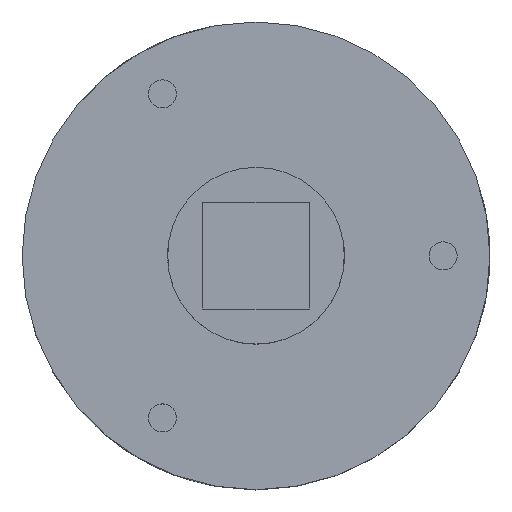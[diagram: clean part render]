
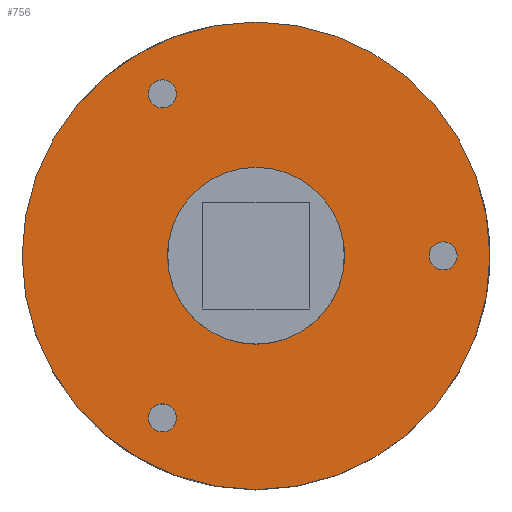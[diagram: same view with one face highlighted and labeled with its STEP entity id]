
A CAD part, top view. The second image highlights one B-rep face of the part: STEP entity #756.
In plain terms, the highlighted planar face has unit normal (0, 0, 1).
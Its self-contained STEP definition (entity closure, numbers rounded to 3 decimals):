
#31 = CYLINDRICAL_SURFACE('',#32,45.);
#32 = AXIS2_PLACEMENT_3D('',#33,#34,#35);
#33 = CARTESIAN_POINT('',(0.,0.,-13.));
#34 = DIRECTION('',(-0.,-0.,-1.));
#35 = DIRECTION('',(1.,0.,0.));
#171 = VERTEX_POINT('',#172);
#172 = CARTESIAN_POINT('',(45.,0.,13.));
#193 = EDGE_CURVE('',#171,#171,#194,.T.);
#194 = SURFACE_CURVE('',#195,(#200,#207),.PCURVE_S1.);
#195 = CIRCLE('',#196,45.);
#196 = AXIS2_PLACEMENT_3D('',#197,#198,#199);
#197 = CARTESIAN_POINT('',(0.,0.,13.));
#198 = DIRECTION('',(0.,0.,1.));
#199 = DIRECTION('',(1.,0.,0.));
#200 = PCURVE('',#31,#201);
#201 = DEFINITIONAL_REPRESENTATION('',(#202),#206);
#202 = LINE('',#203,#204);
#203 = CARTESIAN_POINT('',(-0.,-26.));
#204 = VECTOR('',#205,1.);
#205 = DIRECTION('',(-1.,0.));
#206 = ( GEOMETRIC_REPRESENTATION_CONTEXT(2) 
PARAMETRIC_REPRESENTATION_CONTEXT() REPRESENTATION_CONTEXT('2D SPACE',''
  ) );
#207 = PCURVE('',#208,#213);
#208 = PLANE('',#209);
#209 = AXIS2_PLACEMENT_3D('',#210,#211,#212);
#210 = CARTESIAN_POINT('',(0.,0.,13.));
#211 = DIRECTION('',(0.,0.,1.));
#212 = DIRECTION('',(1.,0.,-0.));
#213 = DEFINITIONAL_REPRESENTATION('',(#214),#218);
#214 = CIRCLE('',#215,45.);
#215 = AXIS2_PLACEMENT_2D('',#216,#217);
#216 = CARTESIAN_POINT('',(0.,0.));
#217 = DIRECTION('',(1.,0.));
#218 = ( GEOMETRIC_REPRESENTATION_CONTEXT(2) 
PARAMETRIC_REPRESENTATION_CONTEXT() REPRESENTATION_CONTEXT('2D SPACE',''
  ) );
#745 = CYLINDRICAL_SURFACE('',#746,2.7);
#746 = AXIS2_PLACEMENT_3D('',#747,#748,#749);
#747 = CARTESIAN_POINT('',(36.,0.,0.));
#748 = DIRECTION('',(0.,-0.,-1.));
#749 = DIRECTION('',(1.,0.,0.));
#756 = ADVANCED_FACE('',(#757,#760,#795,#826,#856),#208,.T.);
#757 = FACE_BOUND('',#758,.T.);
#758 = EDGE_LOOP('',(#759));
#759 = ORIENTED_EDGE('',*,*,#193,.T.);
#760 = FACE_BOUND('',#761,.T.);
#761 = EDGE_LOOP('',(#762));
#762 = ORIENTED_EDGE('',*,*,#763,.T.);
#763 = EDGE_CURVE('',#764,#764,#766,.T.);
#764 = VERTEX_POINT('',#765);
#765 = CARTESIAN_POINT('',(-19.35,-33.515,13.));
#766 = SURFACE_CURVE('',#767,(#772,#783),.PCURVE_S1.);
#767 = CIRCLE('',#768,2.7);
#768 = AXIS2_PLACEMENT_3D('',#769,#770,#771);
#769 = CARTESIAN_POINT('',(-18.,-31.177,13.));
#770 = DIRECTION('',(0.,0.,-1.));
#771 = DIRECTION('',(-0.5,-0.866,-0.));
#772 = PCURVE('',#208,#773);
#773 = DEFINITIONAL_REPRESENTATION('',(#774),#782);
#774 = ( BOUNDED_CURVE() B_SPLINE_CURVE(2,(#775,#776,#777,#778,#779,#780
,#781),.UNSPECIFIED.,.T.,.F.) B_SPLINE_CURVE_WITH_KNOTS((1,2,2,2,2,1),(
    -2.094,0.,2.094,4.189,6.283,
8.378),.UNSPECIFIED.) CURVE() GEOMETRIC_REPRESENTATION_ITEM() 
RATIONAL_B_SPLINE_CURVE((1.,0.5,1.,0.5,1.,0.5,1.)) REPRESENTATION_ITEM(
  '') );
#775 = CARTESIAN_POINT('',(-19.35,-33.515));
#776 = CARTESIAN_POINT('',(-23.4,-31.177));
#777 = CARTESIAN_POINT('',(-19.35,-28.839));
#778 = CARTESIAN_POINT('',(-15.3,-26.5));
#779 = CARTESIAN_POINT('',(-15.3,-31.177));
#780 = CARTESIAN_POINT('',(-15.3,-35.853));
#781 = CARTESIAN_POINT('',(-19.35,-33.515));
#782 = ( GEOMETRIC_REPRESENTATION_CONTEXT(2) 
PARAMETRIC_REPRESENTATION_CONTEXT() REPRESENTATION_CONTEXT('2D SPACE',''
  ) );
#783 = PCURVE('',#784,#789);
#784 = CYLINDRICAL_SURFACE('',#785,2.7);
#785 = AXIS2_PLACEMENT_3D('',#786,#787,#788);
#786 = CARTESIAN_POINT('',(-18.,-31.177,0.));
#787 = DIRECTION('',(0.,0.,-1.));
#788 = DIRECTION('',(-0.5,-0.866,0.));
#789 = DEFINITIONAL_REPRESENTATION('',(#790),#794);
#790 = LINE('',#791,#792);
#791 = CARTESIAN_POINT('',(-6.283,-13.));
#792 = VECTOR('',#793,1.);
#793 = DIRECTION('',(1.,-0.));
#794 = ( GEOMETRIC_REPRESENTATION_CONTEXT(2) 
PARAMETRIC_REPRESENTATION_CONTEXT() REPRESENTATION_CONTEXT('2D SPACE',''
  ) );
#795 = FACE_BOUND('',#796,.T.);
#796 = EDGE_LOOP('',(#797));
#797 = ORIENTED_EDGE('',*,*,#798,.F.);
#798 = EDGE_CURVE('',#799,#799,#801,.T.);
#799 = VERTEX_POINT('',#800);
#800 = CARTESIAN_POINT('',(17.,0.,13.));
#801 = SURFACE_CURVE('',#802,(#807,#814),.PCURVE_S1.);
#802 = CIRCLE('',#803,17.);
#803 = AXIS2_PLACEMENT_3D('',#804,#805,#806);
#804 = CARTESIAN_POINT('',(0.,0.,13.));
#805 = DIRECTION('',(0.,0.,1.));
#806 = DIRECTION('',(1.,0.,0.));
#807 = PCURVE('',#208,#808);
#808 = DEFINITIONAL_REPRESENTATION('',(#809),#813);
#809 = CIRCLE('',#810,17.);
#810 = AXIS2_PLACEMENT_2D('',#811,#812);
#811 = CARTESIAN_POINT('',(0.,0.));
#812 = DIRECTION('',(1.,0.));
#813 = ( GEOMETRIC_REPRESENTATION_CONTEXT(2) 
PARAMETRIC_REPRESENTATION_CONTEXT() REPRESENTATION_CONTEXT('2D SPACE',''
  ) );
#814 = PCURVE('',#815,#820);
#815 = CYLINDRICAL_SURFACE('',#816,17.);
#816 = AXIS2_PLACEMENT_3D('',#817,#818,#819);
#817 = CARTESIAN_POINT('',(0.,0.,13.));
#818 = DIRECTION('',(-0.,-0.,-1.));
#819 = DIRECTION('',(1.,0.,0.));
#820 = DEFINITIONAL_REPRESENTATION('',(#821),#825);
#821 = LINE('',#822,#823);
#822 = CARTESIAN_POINT('',(-0.,0.));
#823 = VECTOR('',#824,1.);
#824 = DIRECTION('',(-1.,0.));
#825 = ( GEOMETRIC_REPRESENTATION_CONTEXT(2) 
PARAMETRIC_REPRESENTATION_CONTEXT() REPRESENTATION_CONTEXT('2D SPACE',''
  ) );
#826 = FACE_BOUND('',#827,.T.);
#827 = EDGE_LOOP('',(#828));
#828 = ORIENTED_EDGE('',*,*,#829,.T.);
#829 = EDGE_CURVE('',#830,#830,#832,.T.);
#830 = VERTEX_POINT('',#831);
#831 = CARTESIAN_POINT('',(38.7,0.,13.));
#832 = SURFACE_CURVE('',#833,(#838,#849),.PCURVE_S1.);
#833 = CIRCLE('',#834,2.7);
#834 = AXIS2_PLACEMENT_3D('',#835,#836,#837);
#835 = CARTESIAN_POINT('',(36.,0.,13.));
#836 = DIRECTION('',(0.,0.,-1.));
#837 = DIRECTION('',(1.,0.,0.));
#838 = PCURVE('',#208,#839);
#839 = DEFINITIONAL_REPRESENTATION('',(#840),#848);
#840 = ( BOUNDED_CURVE() B_SPLINE_CURVE(2,(#841,#842,#843,#844,#845,#846
,#847),.UNSPECIFIED.,.T.,.F.) B_SPLINE_CURVE_WITH_KNOTS((1,2,2,2,2,1),(
    -2.094,0.,2.094,4.189,6.283,
8.378),.UNSPECIFIED.) CURVE() GEOMETRIC_REPRESENTATION_ITEM() 
RATIONAL_B_SPLINE_CURVE((1.,0.5,1.,0.5,1.,0.5,1.)) REPRESENTATION_ITEM(
  '') );
#841 = CARTESIAN_POINT('',(38.7,0.));
#842 = CARTESIAN_POINT('',(38.7,-4.677));
#843 = CARTESIAN_POINT('',(34.65,-2.338));
#844 = CARTESIAN_POINT('',(30.6,0.));
#845 = CARTESIAN_POINT('',(34.65,2.338));
#846 = CARTESIAN_POINT('',(38.7,4.677));
#847 = CARTESIAN_POINT('',(38.7,0.));
#848 = ( GEOMETRIC_REPRESENTATION_CONTEXT(2) 
PARAMETRIC_REPRESENTATION_CONTEXT() REPRESENTATION_CONTEXT('2D SPACE',''
  ) );
#849 = PCURVE('',#745,#850);
#850 = DEFINITIONAL_REPRESENTATION('',(#851),#855);
#851 = LINE('',#852,#853);
#852 = CARTESIAN_POINT('',(-6.283,-13.));
#853 = VECTOR('',#854,1.);
#854 = DIRECTION('',(1.,-0.));
#855 = ( GEOMETRIC_REPRESENTATION_CONTEXT(2) 
PARAMETRIC_REPRESENTATION_CONTEXT() REPRESENTATION_CONTEXT('2D SPACE',''
  ) );
#856 = FACE_BOUND('',#857,.T.);
#857 = EDGE_LOOP('',(#858));
#858 = ORIENTED_EDGE('',*,*,#859,.T.);
#859 = EDGE_CURVE('',#860,#860,#862,.T.);
#860 = VERTEX_POINT('',#861);
#861 = CARTESIAN_POINT('',(-19.35,33.515,13.));
#862 = SURFACE_CURVE('',#863,(#868,#879),.PCURVE_S1.);
#863 = CIRCLE('',#864,2.7);
#864 = AXIS2_PLACEMENT_3D('',#865,#866,#867);
#865 = CARTESIAN_POINT('',(-18.,31.177,13.));
#866 = DIRECTION('',(0.,0.,-1.));
#867 = DIRECTION('',(-0.5,0.866,0.));
#868 = PCURVE('',#208,#869);
#869 = DEFINITIONAL_REPRESENTATION('',(#870),#878);
#870 = ( BOUNDED_CURVE() B_SPLINE_CURVE(2,(#871,#872,#873,#874,#875,#876
,#877),.UNSPECIFIED.,.T.,.F.) B_SPLINE_CURVE_WITH_KNOTS((1,2,2,2,2,1),(
    -2.094,0.,2.094,4.189,6.283,
8.378),.UNSPECIFIED.) CURVE() GEOMETRIC_REPRESENTATION_ITEM() 
RATIONAL_B_SPLINE_CURVE((1.,0.5,1.,0.5,1.,0.5,1.)) REPRESENTATION_ITEM(
  '') );
#871 = CARTESIAN_POINT('',(-19.35,33.515));
#872 = CARTESIAN_POINT('',(-15.3,35.853));
#873 = CARTESIAN_POINT('',(-15.3,31.177));
#874 = CARTESIAN_POINT('',(-15.3,26.5));
#875 = CARTESIAN_POINT('',(-19.35,28.839));
#876 = CARTESIAN_POINT('',(-23.4,31.177));
#877 = CARTESIAN_POINT('',(-19.35,33.515));
#878 = ( GEOMETRIC_REPRESENTATION_CONTEXT(2) 
PARAMETRIC_REPRESENTATION_CONTEXT() REPRESENTATION_CONTEXT('2D SPACE',''
  ) );
#879 = PCURVE('',#880,#885);
#880 = CYLINDRICAL_SURFACE('',#881,2.7);
#881 = AXIS2_PLACEMENT_3D('',#882,#883,#884);
#882 = CARTESIAN_POINT('',(-18.,31.177,0.));
#883 = DIRECTION('',(0.,0.,-1.));
#884 = DIRECTION('',(-0.5,0.866,0.));
#885 = DEFINITIONAL_REPRESENTATION('',(#886),#890);
#886 = LINE('',#887,#888);
#887 = CARTESIAN_POINT('',(-6.283,-13.));
#888 = VECTOR('',#889,1.);
#889 = DIRECTION('',(1.,-0.));
#890 = ( GEOMETRIC_REPRESENTATION_CONTEXT(2) 
PARAMETRIC_REPRESENTATION_CONTEXT() REPRESENTATION_CONTEXT('2D SPACE',''
  ) );
